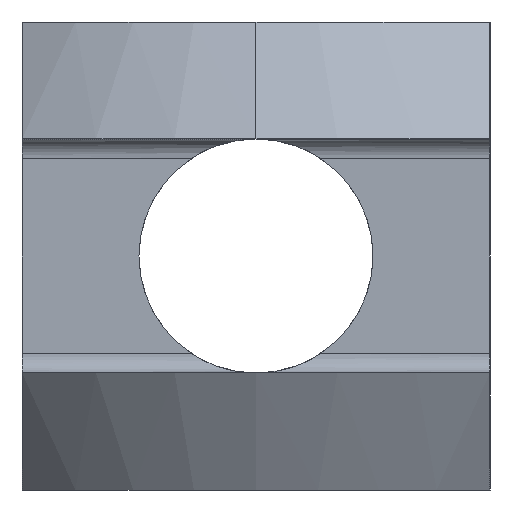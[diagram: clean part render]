
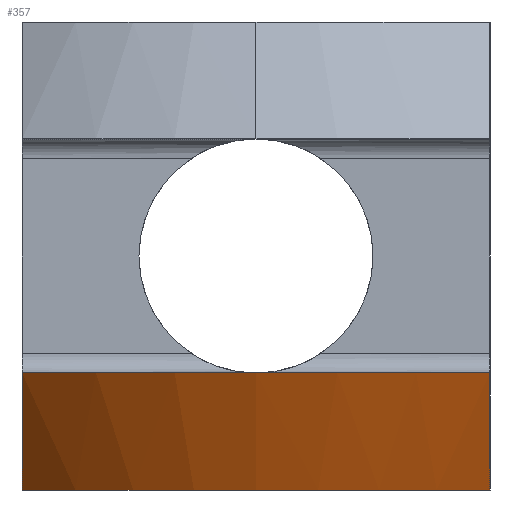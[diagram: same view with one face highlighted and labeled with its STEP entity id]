
A CAD part, left-side view. The second image highlights one B-rep face of the part: STEP entity #357.
In plain terms, the highlighted conical face has half-angle 30 degrees and reference radius 24 mm.
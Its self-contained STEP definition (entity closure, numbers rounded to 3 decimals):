
#119 = EDGE_CURVE ( 'NONE', #120, #121, #578, .T. ) ;
#120 = VERTEX_POINT ( 'NONE', #573 ) ;
#121 = VERTEX_POINT ( 'NONE', #572 ) ;
#210 = EDGE_CURVE ( 'NONE', #335, #120, #813, .T. ) ;
#323 = EDGE_CURVE ( 'NONE', #121, #324, #1037, .T. ) ;
#324 = VERTEX_POINT ( 'NONE', #1036 ) ;
#334 = EDGE_CURVE ( 'NONE', #335, #324, #1083, .T. ) ;
#335 = VERTEX_POINT ( 'NONE', #1075 ) ;
#357 = ADVANCED_FACE ( 'NONE', ( #1106 ), #1102, .T. ) ;
#362 = ORIENTED_EDGE ( 'NONE', *, *, #210, .F. ) ;
#363 = ORIENTED_EDGE ( 'NONE', *, *, #119, .F. ) ;
#364 = EDGE_LOOP ( 'NONE', ( #363, #362, #365, #1275 ) ) ;
#365 = ORIENTED_EDGE ( 'NONE', *, *, #334, .T. ) ;
#572 = CARTESIAN_POINT ( 'NONE',  ( -82.785, -12., -6. ) ) ;
#573 = CARTESIAN_POINT ( 'NONE',  ( -82.785, 12., -6. ) ) ;
#574 = DIRECTION ( 'NONE',  ( 1., 0., 0. ) ) ;
#575 = DIRECTION ( 'NONE',  ( 0., 0., 1. ) ) ;
#576 = CARTESIAN_POINT ( 'NONE',  ( -62., 0., -6. ) ) ;
#577 = AXIS2_PLACEMENT_3D ( 'NONE', #576, #575, #574 ) ;
#578 = CIRCLE ( 'NONE', #577, 24. ) ;
#808 = CARTESIAN_POINT ( 'NONE',  ( -82.785, 12., -6. ) ) ;
#809 = CARTESIAN_POINT ( 'NONE',  ( -81.439, 12., -8.018 ) ) ;
#810 = CARTESIAN_POINT ( 'NONE',  ( -80.072, 12., -10.022 ) ) ;
#811 = CARTESIAN_POINT ( 'NONE',  ( -78.665, 12., -12. ) ) ;
#813 = B_SPLINE_CURVE_WITH_KNOTS ( 'NONE', 3,
 ( #811, #810, #809, #808 ),
 .UNSPECIFIED., .F., .F.,
 ( 4, 4 ),
 ( 0.043, 0.05 ),
 .UNSPECIFIED. ) ;
#1032 = CARTESIAN_POINT ( 'NONE',  ( -78.665, -12., -12. ) ) ;
#1033 = CARTESIAN_POINT ( 'NONE',  ( -80.072, -12., -10.022 ) ) ;
#1034 = CARTESIAN_POINT ( 'NONE',  ( -81.439, -12., -8.018 ) ) ;
#1035 = CARTESIAN_POINT ( 'NONE',  ( -82.785, -12., -6. ) ) ;
#1036 = CARTESIAN_POINT ( 'NONE',  ( -78.665, -12., -12. ) ) ;
#1037 = B_SPLINE_CURVE_WITH_KNOTS ( 'NONE', 3,
 ( #1035, #1034, #1033, #1032 ),
 .UNSPECIFIED., .F., .F.,
 ( 4, 4 ),
 ( 0.018, 0.025 ),
 .UNSPECIFIED. ) ;
#1075 = CARTESIAN_POINT ( 'NONE',  ( -78.665, 12., -12. ) ) ;
#1076 = DIRECTION ( 'NONE',  ( 1., 0., 0. ) ) ;
#1077 = DIRECTION ( 'NONE',  ( 0., 0., 1. ) ) ;
#1078 = CARTESIAN_POINT ( 'NONE',  ( -62., 0., -12. ) ) ;
#1079 = AXIS2_PLACEMENT_3D ( 'NONE', #1078, #1077, #1076 ) ;
#1083 = CIRCLE ( 'NONE', #1079, 20.536 ) ;
#1097 = DIRECTION ( 'NONE',  ( 1., 0., 0. ) ) ;
#1098 = DIRECTION ( 'NONE',  ( 0., 0., 1. ) ) ;
#1099 = AXIS2_PLACEMENT_3D ( 'NONE', #1101, #1098, #1097 ) ;
#1101 = CARTESIAN_POINT ( 'NONE',  ( -62., 0., -6. ) ) ;
#1102 = CONICAL_SURFACE ( 'NONE', #1099, 24., 0.524 ) ;
#1106 = FACE_OUTER_BOUND ( 'NONE', #364, .T. ) ;
#1275 = ORIENTED_EDGE ( 'NONE', *, *, #323, .F. ) ;
